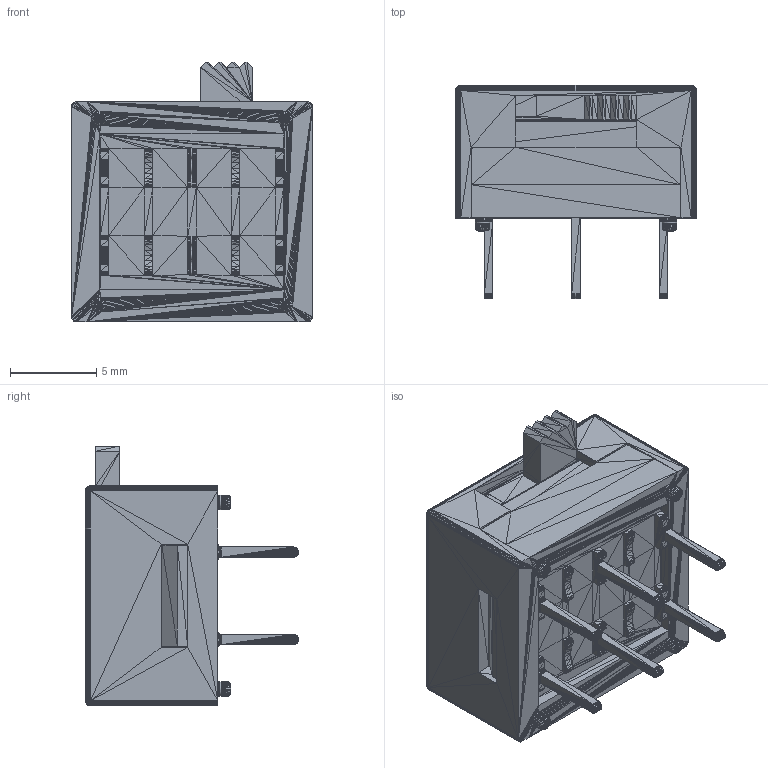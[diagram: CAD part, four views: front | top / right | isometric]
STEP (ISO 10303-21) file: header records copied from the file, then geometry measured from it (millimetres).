
FILE_DESCRIPTION(/* description */ (''),/* implementation_level */ '2;1');
FILE_NAME(/* name */ 'MSS 3122 N-R.stp',/* time_stamp */ '2017-5-16T20:42:47.4266494',/* author */ ('knitter-switch'),/* organization */ (''),/* preprocessor_version */ 'InStep v2',/* originating_system */ 'InStep V2.3',/* authorisation */ '');
FILE_SCHEMA (('AUTOMOTIVE_DESIGN { 1 0 10303 214 1 1 1 1 }'));
Length unit declared in the file: centimetre
Products named in the file (1): None
Bounding box: 14 x 12.4 x 15.1 mm (x, y, z)
Surface area: 1228.3 mm2 (no closed solid volume)
Topology: 0 solids, 13 shells, 5519 faces, 9607 edges, 3830 vertices
Faces by surface type: plane 5519
Entity records: 88186 total; most frequent: ORIENTED_EDGE 19214, DIRECTION 10001, LINE 9607, EDGE_CURVE 9607, AXIS2_PLACEMENT_3D 5520, EDGE_LOOP 5519, FACE_OUTER_BOUND 5519, PLANE 5519
